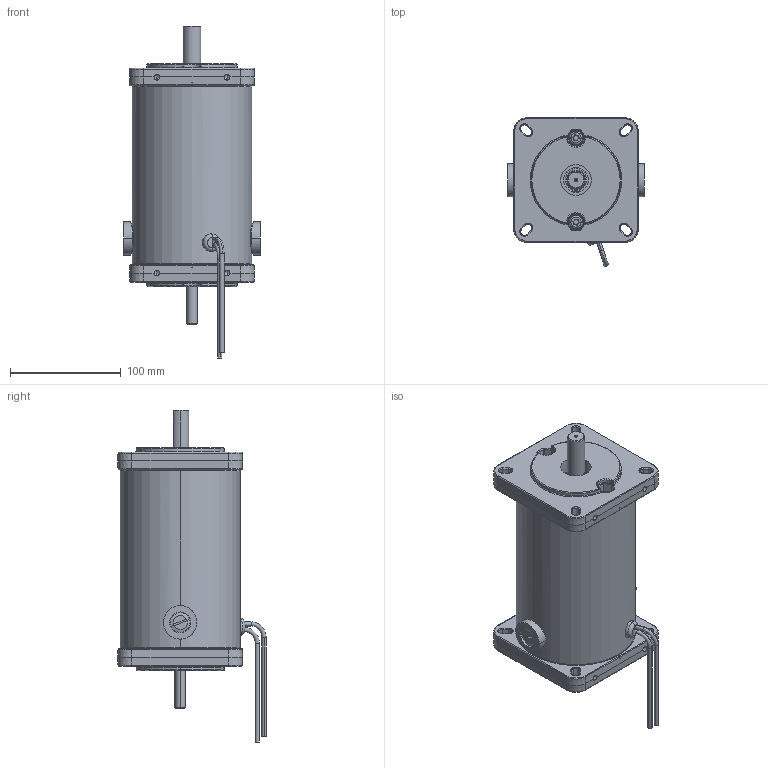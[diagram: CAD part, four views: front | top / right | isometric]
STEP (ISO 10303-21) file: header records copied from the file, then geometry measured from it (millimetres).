
FILE_DESCRIPTION (( 'STEP AP203' ), '1' );
FILE_NAME ('PM10816.STEP', '2008-11-18T16:36:44', ( 'eng-rjs' ), ( 'groschopp' ), 'SwSTEP 2.0', 'SolidWorks 2008', '' );
FILE_SCHEMA (( 'CONFIG_CONTROL_DESIGN' ));
Products named in the file (18): 513-75-0300_-0300; 831-75-0100; 600-10-0000; 705-10-0001_-0001; 310-10-0003; X6252-344; PM10816; 840-75-0100; 841-75-0100-0109_-0100; 707-10-1300; 608-30-0000_1 inch id; 821-75-0100_821-75-0101; 600-10-0028; 660-10-0806; lead wire blk PM108; lead wire red PM108; 300-15-0100-0199_300-15-0100; 344-20-0066
Assembly tree (23 placements, depth 3):
  PM10816
    705-10-0001_-0001  x2
    840-75-0100
      608-30-0000_1 inch id  x2
      513-75-0300_-0300  x2
      841-75-0100-0109_-0100
      707-10-1300  x2
    lead wire red PM108
    660-10-0806
    344-20-0066
    310-10-0003  x2
    600-10-0000
    300-15-0100-0199_300-15-0100  x2
    lead wire blk PM108
    600-10-0028
    X6252-344
    821-75-0100_821-75-0101
    831-75-0100
Bounding box: 123.65 x 134.02 x 299.91 mm (x, y, z)
Volume: 1079786.7 mm3; surface area: 285654.2 mm2
Topology: 22 solids, 32 shells, 1946 faces, 4843 edges, 3002 vertices
Faces by surface type: cylinder 555, cone 441, plane 390, torus 342, bspline 162, sphere 56
Entity records: 58791 total; most frequent: CARTESIAN_POINT 19614, DIRECTION 7912, ORIENTED_EDGE 7844, EDGE_CURVE 3922, AXIS2_PLACEMENT_3D 3387, VERTEX_POINT 2428, CIRCLE 1929, EDGE_LOOP 1740
